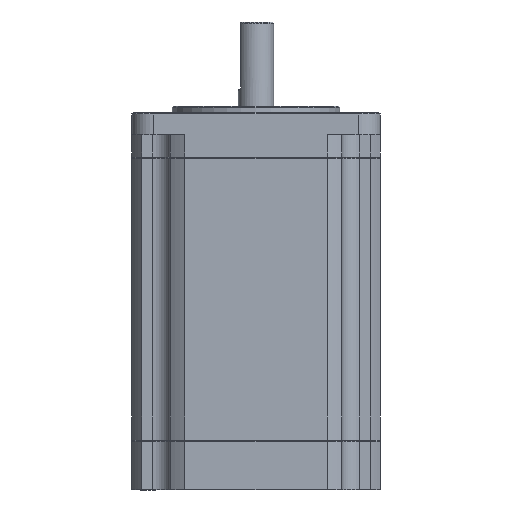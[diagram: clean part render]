
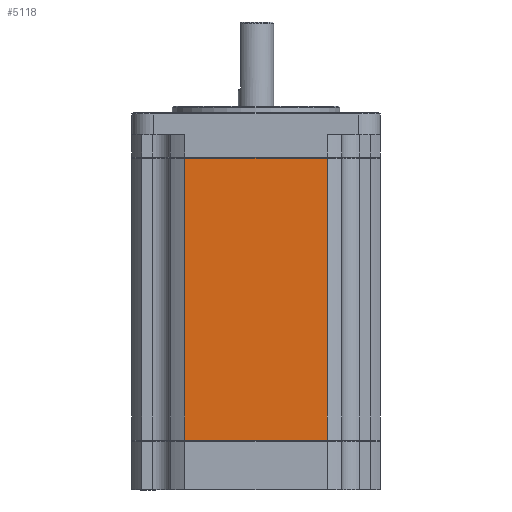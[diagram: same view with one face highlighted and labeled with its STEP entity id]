
A CAD part, front view. The second image highlights one B-rep face of the part: STEP entity #5118.
In plain terms, the highlighted planar face has unit normal (0, -1, 0).
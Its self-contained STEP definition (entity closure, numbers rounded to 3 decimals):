
#510 = VECTOR ( 'NONE', #2709, 1000. ) ;
#1145 = DIRECTION ( 'NONE',  ( 0., 0., -1. ) ) ;
#1622 = LINE ( 'NONE', #9789, #17924 ) ;
#2379 = CARTESIAN_POINT ( 'NONE',  ( -16.156, -28.2, -64. ) ) ;
#2709 = DIRECTION ( 'NONE',  ( -1., 0., 0. ) ) ;
#3559 = LINE ( 'NONE', #16385, #9898 ) ;
#3701 = VERTEX_POINT ( 'NONE', #8107 ) ;
#4097 = DIRECTION ( 'NONE',  ( 0., -1., 0. ) ) ;
#4547 = DIRECTION ( 'NONE',  ( 1., 0., 0. ) ) ;
#4899 = ORIENTED_EDGE ( 'NONE', *, *, #15729, .T. ) ;
#5118 = ADVANCED_FACE ( 'NONE', ( #5476 ), #15547, .T. ) ;
#5276 = CARTESIAN_POINT ( 'NONE',  ( -16.156, -28.2, -64. ) ) ;
#5476 = FACE_OUTER_BOUND ( 'NONE', #11874, .T. ) ;
#5890 = CARTESIAN_POINT ( 'NONE',  ( 16.156, -28.2, -64. ) ) ;
#6404 = ORIENTED_EDGE ( 'NONE', *, *, #11352, .T. ) ;
#6775 = CARTESIAN_POINT ( 'NONE',  ( -16.156, -28.2, -64. ) ) ;
#8107 = CARTESIAN_POINT ( 'NONE',  ( -16.156, -28.2, 0. ) ) ;
#8306 = CARTESIAN_POINT ( 'NONE',  ( -16.156, -28.2, 0. ) ) ;
#8740 = VECTOR ( 'NONE', #1145, 1000. ) ;
#9429 = VERTEX_POINT ( 'NONE', #2379 ) ;
#9593 = DIRECTION ( 'NONE',  ( 0., 0., -1. ) ) ;
#9789 = CARTESIAN_POINT ( 'NONE',  ( 0., -28.2, -64. ) ) ;
#9898 = VECTOR ( 'NONE', #13462, 1000. ) ;
#10713 = ORIENTED_EDGE ( 'NONE', *, *, #14684, .T. ) ;
#11352 = EDGE_CURVE ( 'NONE', #9429, #12253, #1622, .T. ) ;
#11874 = EDGE_LOOP ( 'NONE', ( #6404, #15899, #10713, #4899 ) ) ;
#12234 = LINE ( 'NONE', #5276, #8740 ) ;
#12253 = VERTEX_POINT ( 'NONE', #5890 ) ;
#12502 = VERTEX_POINT ( 'NONE', #15217 ) ;
#12871 = AXIS2_PLACEMENT_3D ( 'NONE', #6775, #4097, #9593 ) ;
#13462 = DIRECTION ( 'NONE',  ( 0., 0., -1. ) ) ;
#14684 = EDGE_CURVE ( 'NONE', #12502, #3701, #14998, .T. ) ;
#14998 = LINE ( 'NONE', #8306, #510 ) ;
#15217 = CARTESIAN_POINT ( 'NONE',  ( 16.156, -28.2, 0. ) ) ;
#15547 = PLANE ( 'NONE',  #12871 ) ;
#15729 = EDGE_CURVE ( 'NONE', #3701, #9429, #12234, .T. ) ;
#15899 = ORIENTED_EDGE ( 'NONE', *, *, #16411, .F. ) ;
#16385 = CARTESIAN_POINT ( 'NONE',  ( 16.156, -28.2, -64. ) ) ;
#16411 = EDGE_CURVE ( 'NONE', #12502, #12253, #3559, .T. ) ;
#17924 = VECTOR ( 'NONE', #4547, 1000. ) ;
